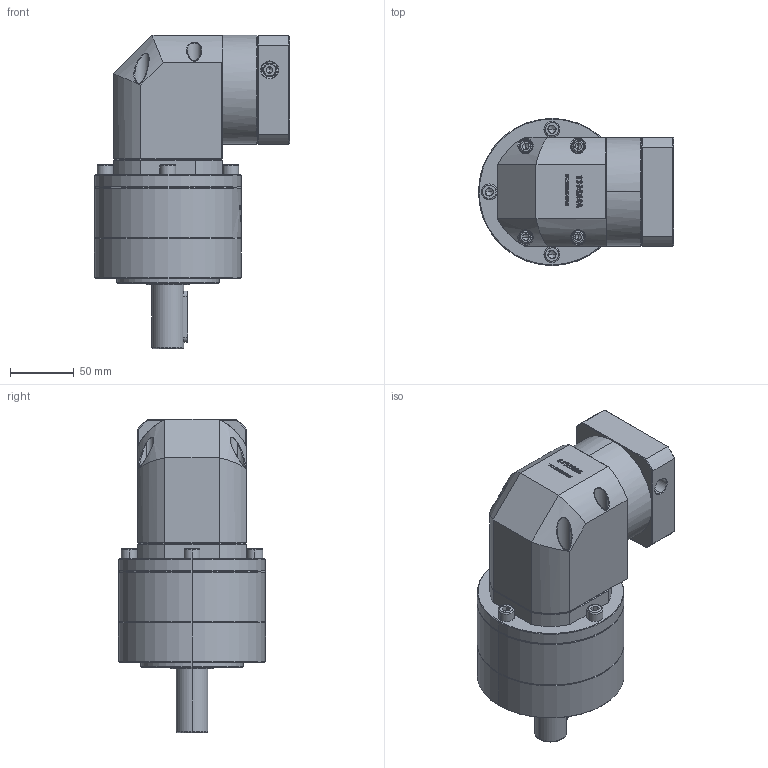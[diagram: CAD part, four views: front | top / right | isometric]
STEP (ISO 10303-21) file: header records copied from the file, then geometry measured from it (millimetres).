
FILE_DESCRIPTION (( 'STEP AP214' ), '1' );
FILE_NAME ('ZER120A-D25-L2-14-73-69.5X69.5-M6.step', '2023-03-14T10:24:37', ( '' ), ( '' ), 'SwSTEP 2.0', 'SolidWorks 2016', '' );
FILE_SCHEMA (( 'AUTOMOTIVE_DESIGN' ));
Length unit declared in the file: millimetre
Products named in the file (1): ZER120A-D25-L2-14-73-69.5X69.5-M6
Bounding box: 152.6 x 115 x 245 mm (x, y, z)
Volume: 1792867.7 mm3; surface area: 165463.2 mm2
Topology: 6 solids, 6 shells, 3082 faces, 8203 edges, 5266 vertices
Faces by surface type: plane 1557, bspline 637, cylinder 551, cone 323, torus 14
Entity records: 174749 total; most frequent: CARTESIAN_POINT 71009, ORIENTED_EDGE 16298, DIRECTION 11771, EDGE_CURVE 8149, VERTEX_POINT 5266, LINE 4981, VECTOR 4981, AXIS2_PLACEMENT_3D 3395
